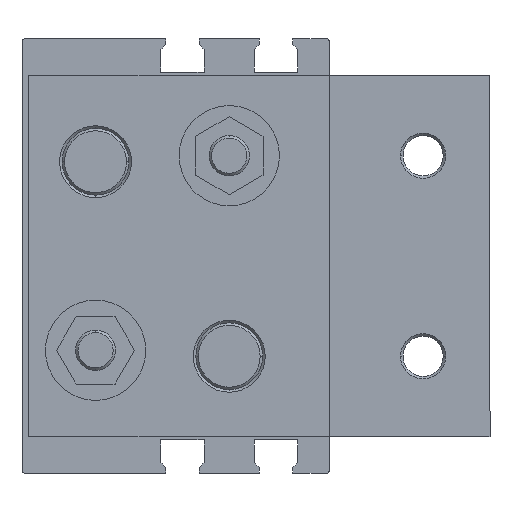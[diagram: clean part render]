
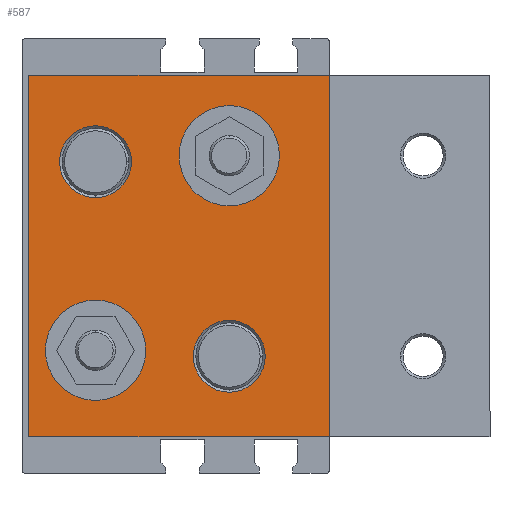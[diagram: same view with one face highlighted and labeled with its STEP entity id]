
A CAD part, left-side view. The second image highlights one B-rep face of the part: STEP entity #587.
In plain terms, the highlighted planar face has unit normal (-1, 0, 0) as drawn and (1, 0, 0) by its records, which use the part's own axes.
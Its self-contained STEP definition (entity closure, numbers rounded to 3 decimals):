
#50 = VECTOR ( 'NONE', #6806, 1000. ) ;
#88 = ORIENTED_EDGE ( 'NONE', *, *, #7788, .F. ) ;
#97 = DIRECTION ( 'NONE',  ( 0., -1., 0. ) ) ;
#196 = ORIENTED_EDGE ( 'NONE', *, *, #6978, .F. ) ;
#214 = CARTESIAN_POINT ( 'NONE',  ( 17., -45., 27. ) ) ;
#325 = EDGE_CURVE ( 'NONE', #6677, #4596, #736, .T. ) ;
#333 = CARTESIAN_POINT ( 'NONE',  ( 17., -45., 27. ) ) ;
#392 = CARTESIAN_POINT ( 'NONE',  ( 17., -37.5, -15. ) ) ;
#403 = VERTEX_POINT ( 'NONE', #4657 ) ;
#566 = ORIENTED_EDGE ( 'NONE', *, *, #3767, .F. ) ;
#587 = ADVANCED_FACE ( 'NONE', ( #6932, #4074, #5337, #3682, #2078 ), #3370, .F. ) ;
#736 = CIRCLE ( 'NONE', #6524, 5.375 ) ;
#741 = AXIS2_PLACEMENT_3D ( 'NONE', #5983, #2318, #6585 ) ;
#800 = CIRCLE ( 'NONE', #2262, 5.375 ) ;
#896 = EDGE_LOOP ( 'NONE', ( #5036, #6356 ) ) ;
#921 = DIRECTION ( 'NONE',  ( 1., 0., 0. ) ) ;
#954 = DIRECTION ( 'NONE',  ( -1., 0., 0. ) ) ;
#1065 = AXIS2_PLACEMENT_3D ( 'NONE', #6644, #2979, #7256 ) ;
#1089 = CIRCLE ( 'NONE', #4375, 7.5 ) ;
#1197 = EDGE_CURVE ( 'NONE', #7155, #403, #1301, .T. ) ;
#1301 = LINE ( 'NONE', #6209, #50 ) ;
#1377 = LINE ( 'NONE', #214, #2994 ) ;
#1554 = DIRECTION ( 'NONE',  ( 1., 0., 0. ) ) ;
#1585 = CIRCLE ( 'NONE', #741, 5.375 ) ;
#1841 = ORIENTED_EDGE ( 'NONE', *, *, #3293, .F. ) ;
#2078 = FACE_BOUND ( 'NONE', #3680, .T. ) ;
#2107 = DIRECTION ( 'NONE',  ( 0., -1., 0. ) ) ;
#2124 = EDGE_LOOP ( 'NONE', ( #88, #3779 ) ) ;
#2262 = AXIS2_PLACEMENT_3D ( 'NONE', #6409, #2759, #7026 ) ;
#2311 = CARTESIAN_POINT ( 'NONE',  ( 17., -30., -15. ) ) ;
#2318 = DIRECTION ( 'NONE',  ( 1., 0., 0. ) ) ;
#2419 = CIRCLE ( 'NONE', #2657, 7.5 ) ;
#2602 = EDGE_LOOP ( 'NONE', ( #6436, #4420, #6908, #1841 ) ) ;
#2657 = AXIS2_PLACEMENT_3D ( 'NONE', #5221, #1554, #5831 ) ;
#2759 = DIRECTION ( 'NONE',  ( 1., 0., 0. ) ) ;
#2844 = ORIENTED_EDGE ( 'NONE', *, *, #4724, .F. ) ;
#2912 = DIRECTION ( 'NONE',  ( 1., 0., 0. ) ) ;
#2929 = DIRECTION ( 'NONE',  ( 0., 1., 0. ) ) ;
#2979 = DIRECTION ( 'NONE',  ( 1., 0., 0. ) ) ;
#2994 = VECTOR ( 'NONE', #3871, 1000. ) ;
#3027 = EDGE_CURVE ( 'NONE', #4790, #5373, #6067, .T. ) ;
#3089 = CARTESIAN_POINT ( 'NONE',  ( 17., -10., 14.1 ) ) ;
#3267 = LINE ( 'NONE', #4991, #6336 ) ;
#3293 = EDGE_CURVE ( 'NONE', #7155, #7719, #3758, .T. ) ;
#3370 = PLANE ( 'NONE',  #5968 ) ;
#3466 = CARTESIAN_POINT ( 'NONE',  ( 17., 0., -27. ) ) ;
#3522 = AXIS2_PLACEMENT_3D ( 'NONE', #2311, #6582, #2929 ) ;
#3601 = CARTESIAN_POINT ( 'NONE',  ( 17., -17.5, 14.1 ) ) ;
#3611 = CARTESIAN_POINT ( 'NONE',  ( 17., -10., -19.475 ) ) ;
#3624 = VERTEX_POINT ( 'NONE', #3611 ) ;
#3680 = EDGE_LOOP ( 'NONE', ( #196, #2844 ) ) ;
#3682 = FACE_BOUND ( 'NONE', #7103, .T. ) ;
#3702 = DIRECTION ( 'NONE',  ( 0., 1., 0. ) ) ;
#3758 = LINE ( 'NONE', #6372, #3961 ) ;
#3767 = EDGE_CURVE ( 'NONE', #4596, #6677, #800, .T. ) ;
#3776 = EDGE_CURVE ( 'NONE', #5373, #4790, #2419, .T. ) ;
#3779 = ORIENTED_EDGE ( 'NONE', *, *, #7374, .F. ) ;
#3871 = DIRECTION ( 'NONE',  ( 0., 0., -1. ) ) ;
#3961 = VECTOR ( 'NONE', #2107, 1000. ) ;
#4074 = FACE_BOUND ( 'NONE', #2124, .T. ) ;
#4170 = CARTESIAN_POINT ( 'NONE',  ( 17., -45., 27. ) ) ;
#4269 = AXIS2_PLACEMENT_3D ( 'NONE', #3089, #7362, #3702 ) ;
#4375 = AXIS2_PLACEMENT_3D ( 'NONE', #6570, #2912, #7171 ) ;
#4415 = EDGE_CURVE ( 'NONE', #6407, #7719, #1377, .T. ) ;
#4420 = ORIENTED_EDGE ( 'NONE', *, *, #5951, .T. ) ;
#4586 = CARTESIAN_POINT ( 'NONE',  ( 17., -30., 15. ) ) ;
#4596 = VERTEX_POINT ( 'NONE', #5299 ) ;
#4657 = CARTESIAN_POINT ( 'NONE',  ( 17., 0., 27. ) ) ;
#4724 = EDGE_CURVE ( 'NONE', #5817, #3624, #5390, .T. ) ;
#4760 = CARTESIAN_POINT ( 'NONE',  ( 17., -2.5, 14.1 ) ) ;
#4790 = VERTEX_POINT ( 'NONE', #6693 ) ;
#4991 = CARTESIAN_POINT ( 'NONE',  ( 17., 0., 27. ) ) ;
#5036 = ORIENTED_EDGE ( 'NONE', *, *, #3027, .F. ) ;
#5191 = DIRECTION ( 'NONE',  ( 0., 0., -1. ) ) ;
#5221 = CARTESIAN_POINT ( 'NONE',  ( 17., -30., -15. ) ) ;
#5233 = DIRECTION ( 'NONE',  ( 0., 0., 1. ) ) ;
#5263 = ORIENTED_EDGE ( 'NONE', *, *, #325, .F. ) ;
#5299 = CARTESIAN_POINT ( 'NONE',  ( 17., -30., 9.625 ) ) ;
#5337 = FACE_BOUND ( 'NONE', #896, .T. ) ;
#5373 = VERTEX_POINT ( 'NONE', #392 ) ;
#5390 = CIRCLE ( 'NONE', #1065, 5.375 ) ;
#5398 = CIRCLE ( 'NONE', #4269, 7.5 ) ;
#5460 = VERTEX_POINT ( 'NONE', #4760 ) ;
#5784 = VERTEX_POINT ( 'NONE', #3601 ) ;
#5817 = VERTEX_POINT ( 'NONE', #7281 ) ;
#5831 = DIRECTION ( 'NONE',  ( 0., 1., 0. ) ) ;
#5951 = EDGE_CURVE ( 'NONE', #403, #6407, #3267, .T. ) ;
#5968 = AXIS2_PLACEMENT_3D ( 'NONE', #333, #954, #5233 ) ;
#5983 = CARTESIAN_POINT ( 'NONE',  ( 17., -10., -14.1 ) ) ;
#6067 = CIRCLE ( 'NONE', #3522, 7.5 ) ;
#6209 = CARTESIAN_POINT ( 'NONE',  ( 17., 0., 27. ) ) ;
#6336 = VECTOR ( 'NONE', #97, 1000. ) ;
#6356 = ORIENTED_EDGE ( 'NONE', *, *, #3776, .F. ) ;
#6372 = CARTESIAN_POINT ( 'NONE',  ( 17., 0., -27. ) ) ;
#6383 = CARTESIAN_POINT ( 'NONE',  ( 17., -45., -27. ) ) ;
#6407 = VERTEX_POINT ( 'NONE', #4170 ) ;
#6409 = CARTESIAN_POINT ( 'NONE',  ( 17., -30., 15. ) ) ;
#6436 = ORIENTED_EDGE ( 'NONE', *, *, #1197, .T. ) ;
#6524 = AXIS2_PLACEMENT_3D ( 'NONE', #4586, #921, #5191 ) ;
#6570 = CARTESIAN_POINT ( 'NONE',  ( 17., -10., 14.1 ) ) ;
#6582 = DIRECTION ( 'NONE',  ( 1., 0., 0. ) ) ;
#6585 = DIRECTION ( 'NONE',  ( 0., 0., -1. ) ) ;
#6644 = CARTESIAN_POINT ( 'NONE',  ( 17., -10., -14.1 ) ) ;
#6677 = VERTEX_POINT ( 'NONE', #7442 ) ;
#6693 = CARTESIAN_POINT ( 'NONE',  ( 17., -22.5, -15. ) ) ;
#6806 = DIRECTION ( 'NONE',  ( 0., 0., 1. ) ) ;
#6908 = ORIENTED_EDGE ( 'NONE', *, *, #4415, .T. ) ;
#6932 = FACE_OUTER_BOUND ( 'NONE', #2602, .T. ) ;
#6978 = EDGE_CURVE ( 'NONE', #3624, #5817, #1585, .T. ) ;
#7026 = DIRECTION ( 'NONE',  ( 0., 0., -1. ) ) ;
#7103 = EDGE_LOOP ( 'NONE', ( #566, #5263 ) ) ;
#7155 = VERTEX_POINT ( 'NONE', #3466 ) ;
#7171 = DIRECTION ( 'NONE',  ( 0., 1., 0. ) ) ;
#7256 = DIRECTION ( 'NONE',  ( 0., 0., -1. ) ) ;
#7281 = CARTESIAN_POINT ( 'NONE',  ( 17., -10., -8.725 ) ) ;
#7362 = DIRECTION ( 'NONE',  ( 1., 0., 0. ) ) ;
#7374 = EDGE_CURVE ( 'NONE', #5784, #5460, #5398, .T. ) ;
#7442 = CARTESIAN_POINT ( 'NONE',  ( 17., -30., 20.375 ) ) ;
#7719 = VERTEX_POINT ( 'NONE', #6383 ) ;
#7788 = EDGE_CURVE ( 'NONE', #5460, #5784, #1089, .T. ) ;
